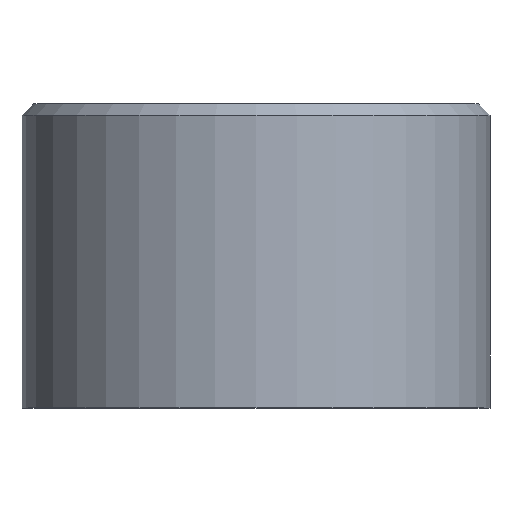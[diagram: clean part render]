
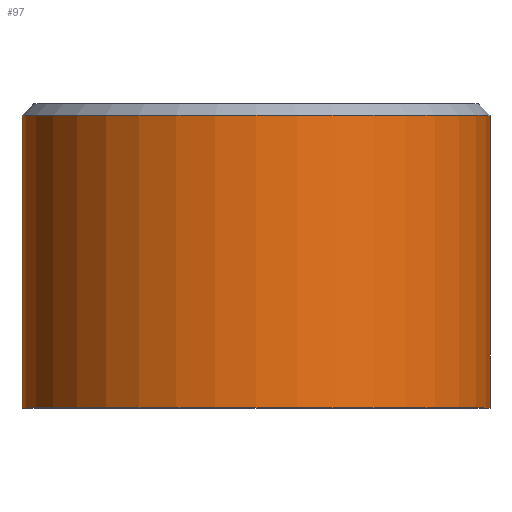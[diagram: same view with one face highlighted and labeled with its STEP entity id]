
A CAD part, top view. The second image highlights one B-rep face of the part: STEP entity #97.
In plain terms, the highlighted cylindrical face has radius 20 mm (diameter 40 mm), a full revolution.
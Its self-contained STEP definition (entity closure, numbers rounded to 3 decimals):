
#15=CYLINDRICAL_SURFACE('',#110,20.);
#23=FACE_BOUND('',#42,.T.);
#31=FACE_OUTER_BOUND('',#41,.T.);
#41=EDGE_LOOP('',(#81));
#42=EDGE_LOOP('',(#82));
#53=CIRCLE('',#106,20.);
#56=CIRCLE('',#111,20.);
#61=VERTEX_POINT('',#157);
#64=VERTEX_POINT('',#165);
#69=EDGE_CURVE('',#61,#61,#53,.T.);
#72=EDGE_CURVE('',#64,#64,#56,.T.);
#81=ORIENTED_EDGE('',*,*,#72,.T.);
#82=ORIENTED_EDGE('',*,*,#69,.F.);
#97=ADVANCED_FACE('',(#31,#23),#15,.T.);
#106=AXIS2_PLACEMENT_3D('',#158,#125,#126);
#110=AXIS2_PLACEMENT_3D('',#164,#133,#134);
#111=AXIS2_PLACEMENT_3D('',#166,#135,#136);
#125=DIRECTION('center_axis',(0.,1.,0.));
#126=DIRECTION('ref_axis',(1.,0.,0.));
#133=DIRECTION('center_axis',(0.,1.,0.));
#134=DIRECTION('ref_axis',(-1.,0.,0.));
#135=DIRECTION('center_axis',(0.,1.,0.));
#136=DIRECTION('ref_axis',(1.,0.,0.));
#157=CARTESIAN_POINT('',(-20.,25.,0.));
#158=CARTESIAN_POINT('Origin',(0.,25.,0.));
#164=CARTESIAN_POINT('Origin',(0.,13.,0.));
#165=CARTESIAN_POINT('',(-20.,0.,0.));
#166=CARTESIAN_POINT('Origin',(0.,0.,0.));
